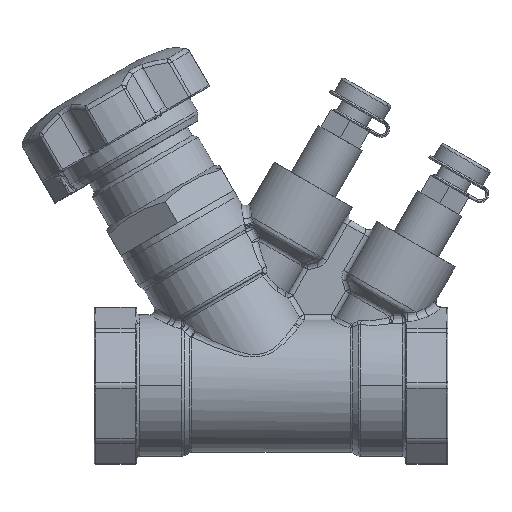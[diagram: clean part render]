
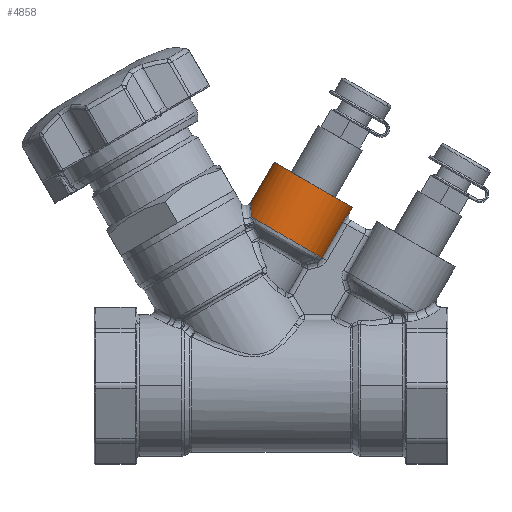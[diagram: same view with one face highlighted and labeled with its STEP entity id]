
A CAD part, left-side view. The second image highlights one B-rep face of the part: STEP entity #4858.
In plain terms, the highlighted cylindrical face has radius 16 mm (diameter 32 mm), a partial arc.
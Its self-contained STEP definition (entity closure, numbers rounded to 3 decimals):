
#68 = CARTESIAN_POINT ( 'NONE',  ( -7.671, 45.809, 46.003 ) ) ;
#1056 = DIRECTION ( 'NONE',  ( 0., -0.5, 0.866 ) ) ;
#1201 = B_SPLINE_CURVE_WITH_KNOTS ( 'NONE', 5,
 ( #57118, #61650, #52169, #62057, #32462, #2740, #37446, #7742, #42396 ),
 .UNSPECIFIED., .F., .F.,
 ( 6, 3, 6 ),
 ( 0.5, 0.724, 1. ),
 .UNSPECIFIED. ) ;
#2383 = VERTEX_POINT ( 'NONE', #68 ) ;
#2426 = CARTESIAN_POINT ( 'NONE',  ( 0., 33.734, 63. ) ) ;
#2740 = CARTESIAN_POINT ( 'NONE',  ( -3.185, 36.121, 59.496 ) ) ;
#4339 = EDGE_CURVE ( 'NONE', #41347, #43185, #13811, .T. ) ;
#4858 = ADVANCED_FACE ( 'NONE', ( #30892 ), #16131, .T. ) ;
#5534 = CARTESIAN_POINT ( 'NONE',  ( -7.718, 69.537, 61.08 ) ) ;
#7232 = EDGE_CURVE ( 'NONE', #13960, #43434, #54776, .T. ) ;
#7421 = CARTESIAN_POINT ( 'NONE',  ( 0., 61.447, 79. ) ) ;
#7742 = CARTESIAN_POINT ( 'NONE',  ( -3.556, 36.844, 58.413 ) ) ;
#8075 = VECTOR ( 'NONE', #10331, 1000. ) ;
#9635 = CIRCLE ( 'NONE', #43313, 16. ) ;
#10331 = DIRECTION ( 'NONE',  ( 0., 0.5, -0.866 ) ) ;
#10535 = CARTESIAN_POINT ( 'NONE',  ( -5.7, 69.628, 62.827 ) ) ;
#10599 = CARTESIAN_POINT ( 'NONE',  ( -3.556, 37.178, 57.835 ) ) ;
#12165 = CARTESIAN_POINT ( 'NONE',  ( 0., 34.831, 61.099 ) ) ;
#12419 = DIRECTION ( 'NONE',  ( 0., 0.5, -0.866 ) ) ;
#12545 = AXIS2_PLACEMENT_3D ( 'NONE', #58483, #28851, #63432 ) ;
#12696 = EDGE_CURVE ( 'NONE', #30542, #41347, #41402, .T. ) ;
#13164 = DIRECTION ( 'NONE',  ( 0., -0.5, 0.866 ) ) ;
#13247 = CARTESIAN_POINT ( 'NONE',  ( 0., 57.969, 53.024 ) ) ;
#13811 = LINE ( 'NONE', #2426, #53349 ) ;
#13960 = VERTEX_POINT ( 'NONE', #60777 ) ;
#14697 = B_SPLINE_CURVE_WITH_KNOTS ( 'NONE', 5,
 ( #29842, #49978, #5534, #40234, #10535, #45220, #15517, #50190, #20518, #55146, #25515, #60096 ),
 .UNSPECIFIED., .F., .F.,
 ( 6, 3, 3, 6 ),
 ( 0., 0.245, 0.442, 0.55 ),
 .UNSPECIFIED. ) ;
#15266 = VECTOR ( 'NONE', #1056, 1000. ) ;
#15477 = ORIENTED_EDGE ( 'NONE', *, *, #22030, .T. ) ;
#15517 = CARTESIAN_POINT ( 'NONE',  ( -3.519, 69.68, 64.008 ) ) ;
#16131 = CYLINDRICAL_SURFACE ( 'NONE', #61241, 16. ) ;
#18253 = DIRECTION ( 'NONE',  ( 0.479, 0.76, 0.439 ) ) ;
#20315 = CARTESIAN_POINT ( 'NONE',  ( 0., 61.447, 79. ) ) ;
#20518 = CARTESIAN_POINT ( 'NONE',  ( -1.244, 69.704, 64.616 ) ) ;
#20894 = ORIENTED_EDGE ( 'NONE', *, *, #4339, .F. ) ;
#21695 = CARTESIAN_POINT ( 'NONE',  ( 0., 47.59, 71. ) ) ;
#21909 = DIRECTION ( 'NONE',  ( 0., 0.5, -0.866 ) ) ;
#22030 = EDGE_CURVE ( 'NONE', #30542, #45717, #34481, .T. ) ;
#23095 = CIRCLE ( 'NONE', #12545, 16. ) ;
#25515 = CARTESIAN_POINT ( 'NONE',  ( -0.415, 69.707, 64.692 ) ) ;
#26213 = EDGE_LOOP ( 'NONE', ( #20894, #64027, #15477, #59977, #48540, #58690, #27383, #31850 ) ) ;
#26689 = DIRECTION ( 'NONE',  ( 0., 0.866, 0.5 ) ) ;
#27383 = ORIENTED_EDGE ( 'NONE', *, *, #7232, .T. ) ;
#28851 = DIRECTION ( 'NONE',  ( 0., 0.5, -0.866 ) ) ;
#29729 = EDGE_CURVE ( 'NONE', #43185, #43434, #1201, .T. ) ;
#29842 = CARTESIAN_POINT ( 'NONE',  ( -8.963, 69.447, 59.65 ) ) ;
#30098 = EDGE_CURVE ( 'NONE', #32548, #45717, #14697, .T. ) ;
#30542 = VERTEX_POINT ( 'NONE', #7421 ) ;
#30563 = CARTESIAN_POINT ( 'NONE',  ( -3.556, 34.08, 63.2 ) ) ;
#30649 = CARTESIAN_POINT ( 'NONE',  ( 0., 69.707, 64.692 ) ) ;
#30892 = FACE_OUTER_BOUND ( 'NONE', #26213, .T. ) ;
#31850 = ORIENTED_EDGE ( 'NONE', *, *, #29729, .F. ) ;
#32462 = CARTESIAN_POINT ( 'NONE',  ( -2.527, 35.498, 60.316 ) ) ;
#32548 = VERTEX_POINT ( 'NONE', #47097 ) ;
#32623 = EDGE_CURVE ( 'NONE', #13960, #2383, #9635, .T. ) ;
#34481 = LINE ( 'NONE', #20315, #8075 ) ;
#37446 = CARTESIAN_POINT ( 'NONE',  ( -3.432, 36.486, 58.977 ) ) ;
#40234 = CARTESIAN_POINT ( 'NONE',  ( -7.029, 69.572, 61.738 ) ) ;
#41347 = VERTEX_POINT ( 'NONE', #42687 ) ;
#41402 = CIRCLE ( 'NONE', #60666, 16. ) ;
#42396 = CARTESIAN_POINT ( 'NONE',  ( -3.556, 37.178, 57.835 ) ) ;
#42687 = CARTESIAN_POINT ( 'NONE',  ( 0., 33.734, 63. ) ) ;
#42834 = CARTESIAN_POINT ( 'NONE',  ( 0., 47.59, 71. ) ) ;
#43185 = VERTEX_POINT ( 'NONE', #12165 ) ;
#43313 = AXIS2_PLACEMENT_3D ( 'NONE', #13247, #47925, #18253 ) ;
#43434 = VERTEX_POINT ( 'NONE', #10599 ) ;
#45220 = CARTESIAN_POINT ( 'NONE',  ( -4.214, 69.666, 63.682 ) ) ;
#45717 = VERTEX_POINT ( 'NONE', #30649 ) ;
#47097 = CARTESIAN_POINT ( 'NONE',  ( -8.963, 69.447, 59.65 ) ) ;
#47834 = DIRECTION ( 'NONE',  ( 0., 0.866, 0.5 ) ) ;
#47904 = EDGE_CURVE ( 'NONE', #2383, #32548, #23095, .T. ) ;
#47925 = DIRECTION ( 'NONE',  ( 0., 0.5, -0.866 ) ) ;
#48540 = ORIENTED_EDGE ( 'NONE', *, *, #47904, .F. ) ;
#49978 = CARTESIAN_POINT ( 'NONE',  ( -8.361, 69.495, 60.382 ) ) ;
#50190 = CARTESIAN_POINT ( 'NONE',  ( -2.403, 69.696, 64.404 ) ) ;
#52169 = CARTESIAN_POINT ( 'NONE',  ( -1.053, 34.905, 61.014 ) ) ;
#53349 = VECTOR ( 'NONE', #12419, 1000. ) ;
#54776 = LINE ( 'NONE', #30563, #15266 ) ;
#55146 = CARTESIAN_POINT ( 'NONE',  ( -0.831, 69.706, 64.667 ) ) ;
#57118 = CARTESIAN_POINT ( 'NONE',  ( 0., 34.831, 61.099 ) ) ;
#58483 = CARTESIAN_POINT ( 'NONE',  ( 0., 57.969, 53.024 ) ) ;
#58690 = ORIENTED_EDGE ( 'NONE', *, *, #32623, .F. ) ;
#59977 = ORIENTED_EDGE ( 'NONE', *, *, #30098, .F. ) ;
#60096 = CARTESIAN_POINT ( 'NONE',  ( 0., 69.707, 64.692 ) ) ;
#60666 = AXIS2_PLACEMENT_3D ( 'NONE', #42834, #13164, #47834 ) ;
#60777 = CARTESIAN_POINT ( 'NONE',  ( -3.556, 44.459, 45.224 ) ) ;
#61241 = AXIS2_PLACEMENT_3D ( 'NONE', #21695, #21909, #26689 ) ;
#61650 = CARTESIAN_POINT ( 'NONE',  ( -0.527, 34.831, 61.099 ) ) ;
#62057 = CARTESIAN_POINT ( 'NONE',  ( -1.547, 35.052, 60.846 ) ) ;
#63432 = DIRECTION ( 'NONE',  ( -0.479, -0.76, -0.439 ) ) ;
#64027 = ORIENTED_EDGE ( 'NONE', *, *, #12696, .F. ) ;
